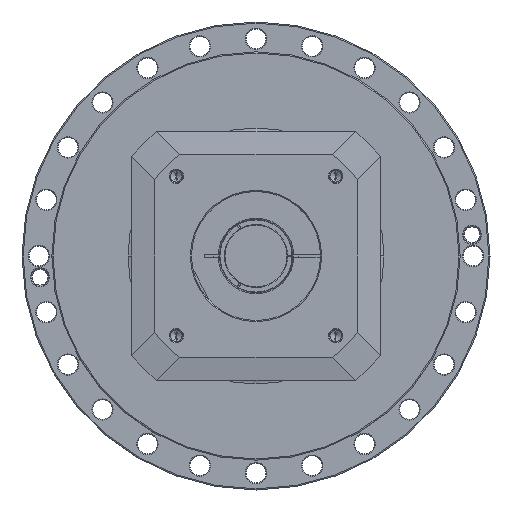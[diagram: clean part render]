
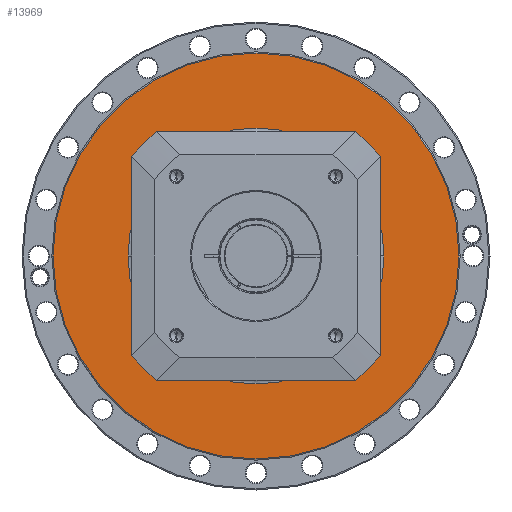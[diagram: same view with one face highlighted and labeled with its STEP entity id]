
A CAD part, left-side view. The second image highlights one B-rep face of the part: STEP entity #13969.
In plain terms, the highlighted planar face has unit normal (-1, 0, 0) as drawn and (1, 0, 0) by its records, which use the part's own axes.
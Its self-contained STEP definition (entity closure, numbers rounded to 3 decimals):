
#13622=CARTESIAN_POINT('',(-17.5,0.,0.));
#13623=DIRECTION('',(-1.,0.,0.));
#13624=DIRECTION('',(0.,-1.,0.));
#13625=AXIS2_PLACEMENT_3D('',#13622,#13623,#13624);
#13627=CARTESIAN_POINT('',(-17.5,0.,0.));
#13628=DIRECTION('',(-1.,0.,0.));
#13629=DIRECTION('',(0.,1.,0.));
#13630=AXIS2_PLACEMENT_3D('',#13627,#13628,#13629);
#13632=CARTESIAN_POINT('',(-17.5,0.,0.));
#13633=DIRECTION('',(-1.,0.,0.));
#13634=DIRECTION('',(0.,-1.,0.));
#13635=AXIS2_PLACEMENT_3D('',#13632,#13633,#13634);
#13637=CARTESIAN_POINT('',(-17.5,0.,0.));
#13638=DIRECTION('',(-1.,0.,0.));
#13639=DIRECTION('',(0.,1.,0.));
#13640=AXIS2_PLACEMENT_3D('',#13637,#13638,#13639);
#13800=CARTESIAN_POINT('',(-17.5,-180.,0.));
#13801=CARTESIAN_POINT('',(-17.5,180.,0.));
#13802=VERTEX_POINT('',#13800);
#13803=VERTEX_POINT('',#13801);
#13820=CARTESIAN_POINT('',(-17.5,-113.5,0.));
#13821=CARTESIAN_POINT('',(-17.5,113.5,0.));
#13822=VERTEX_POINT('',#13820);
#13823=VERTEX_POINT('',#13821);
#13954=CARTESIAN_POINT('',(-17.5,0.,0.));
#13955=DIRECTION('',(1.,0.,0.));
#13956=DIRECTION('',(0.,-1.,0.));
#13957=AXIS2_PLACEMENT_3D('',#13954,#13955,#13956);
#13958=PLANE('',#13957);
#13960=ORIENTED_EDGE('',*,*,#13959,.T.);
#13962=ORIENTED_EDGE('',*,*,#13961,.T.);
#13963=EDGE_LOOP('',(#13960,#13962));
#13964=FACE_OUTER_BOUND('',#13963,.F.);
#13965=ORIENTED_EDGE('',*,*,#13948,.F.);
#13966=ORIENTED_EDGE('',*,*,#13934,.F.);
#13967=EDGE_LOOP('',(#13965,#13966));
#13968=FACE_BOUND('',#13967,.F.);
#13969=ADVANCED_FACE('',(#13964,#13968),#13958,.T.);
#13626=CIRCLE('',#13625,113.5);
#13631=CIRCLE('',#13630,113.5);
#13636=CIRCLE('',#13635,180.);
#13641=CIRCLE('',#13640,180.);
#13934=EDGE_CURVE('',#13823,#13822,#13631,.T.);
#13948=EDGE_CURVE('',#13822,#13823,#13626,.T.);
#13959=EDGE_CURVE('',#13802,#13803,#13636,.T.);
#13961=EDGE_CURVE('',#13803,#13802,#13641,.T.);
